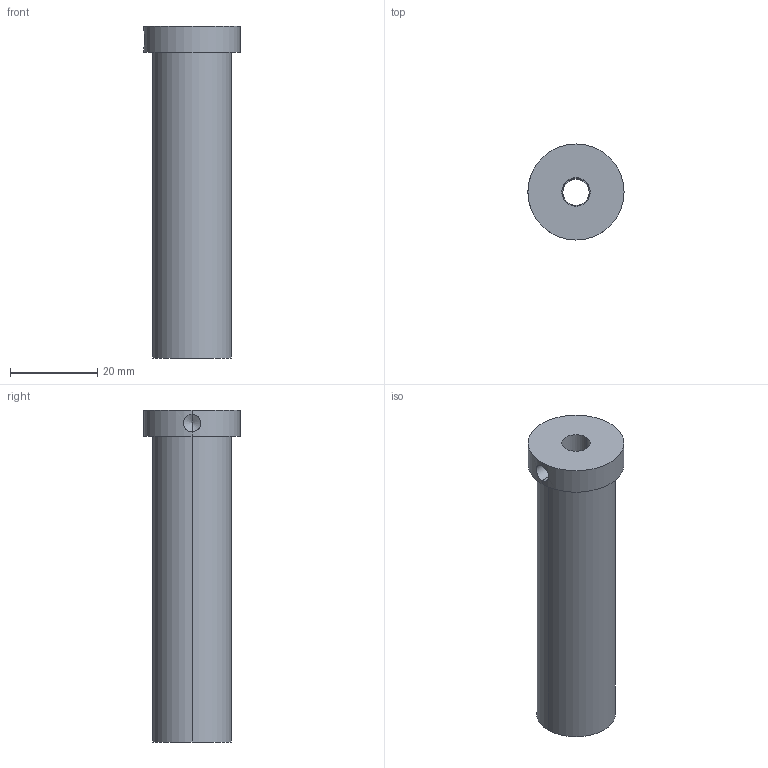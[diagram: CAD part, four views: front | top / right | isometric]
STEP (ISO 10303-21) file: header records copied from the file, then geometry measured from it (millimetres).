
FILE_DESCRIPTION (( 'STEP AP214' ), '1' );
FILE_NAME ('BR53-18x76.STEP', '2020-01-30T11:32:49', ( 'August' ), ( '' ), 'SwSTEP 2.0', 'SolidWorks 2018', '' );
FILE_SCHEMA (( 'AUTOMOTIVE_DESIGN' ));
Length unit declared in the file: millimetre
Products named in the file (1): BR53-18x76
Bounding box: 22 x 22 x 76 mm (x, y, z)
Volume: 17612.6 mm3; surface area: 6662.9 mm2
Topology: 1 solids, 1 shells, 21 faces, 45 edges, 27 vertices
Faces by surface type: cylinder 12, plane 5, cone 4
Entity records: 651 total; most frequent: CARTESIAN_POINT 148, DIRECTION 109, ORIENTED_EDGE 86, AXIS2_PLACEMENT_3D 46, EDGE_CURVE 43, VERTEX_POINT 27, EDGE_LOOP 26, CIRCLE 24
